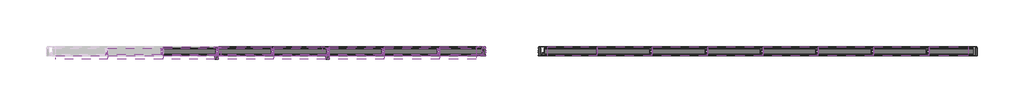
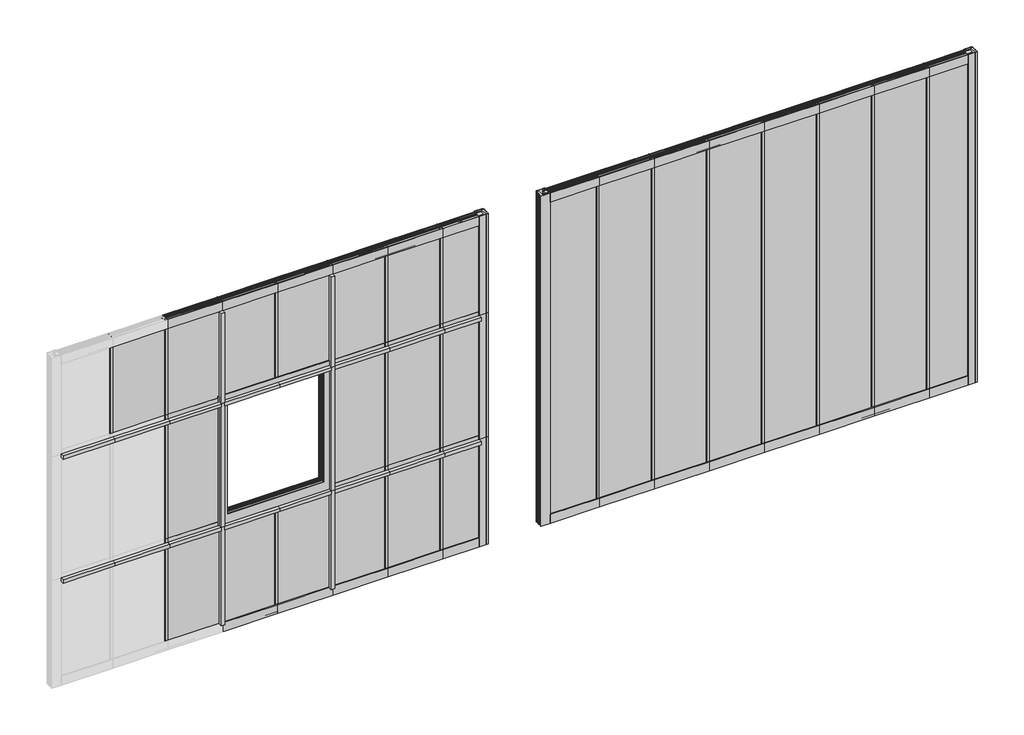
# One storey, part 2 of 2: 54 members, 26 plates.
"""IFC4 building model written with IfcOpenShell, lengths in millimetres."""

from ifc_helpers import new_model, si_unit, origin, place, context, project, spatial, transform, mapped, element, save
from components import rectangular_mullion_8ebac9a3, rectangular_mullion_053339e4, rectangular_mullion_18d46115, rectangular_mullion_0cc837b9, rectangular_mullion_8438cd58, rectangular_mullion_f415532d, rectangular_mullion_088d7f16, rectangular_mullion_d3216a82, rectangular_mullion_355b0079, rectangular_mullion_c23b2a25, rectangular_mullion_e545cc6d, rectangular_mullion_ab91a09a, rectangular_mullion_4e7e75c6, rectangular_mullion_ac457c08, rectangular_mullion_ccd2dda7, plate_56173b51, plate_009a9a5f, plate_79f172ba, plate_d9b624b2, plate_395f4c65, plate_76393524, plate_eff3ac0b, plate_d8b1bd5c, plate_df3c17a9, plate_2f56a092

model = new_model("IFC4")

# Units and contexts
model_context = context("Model", 3, world=origin())
ifc_project = project(units=[si_unit("LENGTHUNIT", "METRE", prefix="MILLI")], contexts=[model_context])

# Site, building, storey
site = spatial("IfcSite", under=ifc_project)
building = spatial("IfcBuilding", under=site)
storey = spatial("IfcBuildingStorey", under=building, Name="Danpal-K7+AIRPT", Elevation=0.0)

# Members
placement = place(None, origin())
rectangular_mullion_shape = rectangular_mullion_8ebac9a3(model_context)
element("IfcMember", 1, ObjectType="Rectangular Mullion : Danpal_Airpt_End-Mullion_B1", at=placement, inside=storey, context=model_context, shape_type="MappedRepresentation", body=[
    mapped(rectangular_mullion_shape, transform((7322.1229407, 18217.5512666, 0.0), x_axis=(0.0, 0.0, -1.0), y_axis=(0.0, -1.0, 0.0), z_axis=(-1.0, 0.0, 0.0))),
])
element("IfcMember", 2, ObjectType="Rectangular Mullion : Danpal_Airpt_End-Mullion_B2", at=placement, inside=storey, context=model_context, shape_type="MappedRepresentation", body=[
    mapped(rectangular_mullion_shape, transform((7322.1229407, 18217.5512666, 4000.0), x_axis=(0.0, 0.0, 1.0), y_axis=(0.0, -1.0, 0.0), z_axis=(1.0, 0.0, 0.0))),
])
rectangular_mullion_2_shape = rectangular_mullion_053339e4(model_context)
element("IfcMember", 3, ObjectType="Rectangular Mullion : Danpal_NM_Middle-V-Mullion", at=placement, inside=storey, context=model_context, shape_type="MappedRepresentation", body=[
    mapped(rectangular_mullion_2_shape, transform((7322.1229407, 18217.5512666, 106.8892292), x_axis=(1.0, 0.0, 0.0), y_axis=(0.0, -1.0, 0.0), z_axis=(0.0, 0.0, -1.0))),
])
element("IfcMember", 4, ObjectType="Rectangular Mullion : Danpal_NM_Middle-V-Mullion", at=placement, inside=storey, context=model_context, shape_type="MappedRepresentation", body=[
    mapped(rectangular_mullion_2_shape, transform((8582.1229407, 18217.5512666, 106.8892292), x_axis=(1.0, 0.0, 0.0), y_axis=(0.0, -1.0, 0.0), z_axis=(0.0, 0.0, -1.0))),
])
rectangular_mullion_3_shape = rectangular_mullion_18d46115(model_context)
element("IfcMember", 5, ObjectType="Rectangular Mullion : Danpal_NM_Middle-V-Mullion", at=placement, inside=storey, context=model_context, shape_type="MappedRepresentation", body=[
    mapped(rectangular_mullion_3_shape, transform((7322.1229407, 18217.5512666, 1300.0), x_axis=(1.0, 0.0, 0.0), y_axis=(0.0, -1.0, 0.0), z_axis=(0.0, 0.0, -1.0))),
])
element("IfcMember", 6, ObjectType="Rectangular Mullion : Danpal_NM_Middle-V-Mullion", at=placement, inside=storey, context=model_context, shape_type="MappedRepresentation", body=[
    mapped(rectangular_mullion_3_shape, transform((8582.1229407, 18217.5512666, 1300.0), x_axis=(1.0, 0.0, 0.0), y_axis=(0.0, -1.0, 0.0), z_axis=(0.0, 0.0, -1.0))),
])
rectangular_mullion_4_shape = rectangular_mullion_0cc837b9(model_context)
element("IfcMember", 7, ObjectType="Rectangular Mullion : Danpal_NM_Middle-V-Mullion", at=placement, inside=storey, context=model_context, shape_type="MappedRepresentation", body=[
    mapped(rectangular_mullion_4_shape, transform((7322.1229407, 18217.5512666, 2800.0), x_axis=(1.0, 0.0, 0.0), y_axis=(0.0, -1.0, 0.0), z_axis=(0.0, 0.0, -1.0))),
])
element("IfcMember", 8, ObjectType="Rectangular Mullion : Danpal_NM_Middle-V-Mullion", at=placement, inside=storey, context=model_context, shape_type="MappedRepresentation", body=[
    mapped(rectangular_mullion_4_shape, transform((8582.1229407, 18217.5512666, 2800.0), x_axis=(1.0, 0.0, 0.0), y_axis=(0.0, -1.0, 0.0), z_axis=(0.0, 0.0, -1.0))),
])
rectangular_mullion_5_shape = rectangular_mullion_8438cd58(model_context)
element("IfcMember", 9, ObjectType="Rectangular Mullion : Danpal_Airpt_End-Mullion_B2", at=placement, inside=storey, context=model_context, shape_type="MappedRepresentation", body=[
    mapped(rectangular_mullion_5_shape, transform((10364.2822678, 18217.5512666, 2800.0), x_axis=(1.0, 0.0, 0.0), y_axis=(0.0, -1.0, 0.0), z_axis=(0.0, 0.0, -1.0))),
])
rectangular_mullion_6_shape = rectangular_mullion_f415532d(model_context)
element("IfcMember", 10, ObjectType="Rectangular Mullion : Danpal_Airpt_End-Mullion_B2", at=placement, inside=storey, context=model_context, shape_type="MappedRepresentation", body=[
    mapped(rectangular_mullion_6_shape, transform((10364.2822678, 18217.5512666, 1300.0), x_axis=(1.0, 0.0, 0.0), y_axis=(0.0, -1.0, 0.0), z_axis=(0.0, 0.0, -1.0))),
])
element("IfcMember", 11, ObjectType="Rectangular Mullion : Danpal_Airpt_End-Mullion_B1", at=placement, inside=storey, context=model_context, shape_type="MappedRepresentation", body=[
    mapped(rectangular_mullion_shape, transform((11633.330824, 18217.5512666, 0.0), x_axis=(0.0, 0.0, -1.0), y_axis=(0.0, -1.0, 0.0), z_axis=(-1.0, 0.0, 0.0))),
])
element("IfcMember", 12, ObjectType="Rectangular Mullion : Danpal_Airpt_End-Mullion_B1", at=placement, inside=storey, context=model_context, shape_type="MappedRepresentation", body=[
    mapped(rectangular_mullion_shape, transform((12263.330824, 18217.5512666, 0.0), x_axis=(0.0, 0.0, -1.0), y_axis=(0.0, -1.0, 0.0), z_axis=(-1.0, 0.0, 0.0))),
])
element("IfcMember", 13, ObjectType="Rectangular Mullion : Danpal_Airpt_End-Mullion_B1", at=placement, inside=storey, context=model_context, shape_type="MappedRepresentation", body=[
    mapped(rectangular_mullion_shape, transform((12893.330824, 18217.5512666, 0.0), x_axis=(0.0, 0.0, -1.0), y_axis=(0.0, -1.0, 0.0), z_axis=(-1.0, 0.0, 0.0))),
])
rectangular_mullion_7_shape = rectangular_mullion_088d7f16(model_context)
element("IfcMember", 14, ObjectType="Rectangular Mullion : Danpal_NM_Middle-V-Mullion", at=placement, inside=storey, context=model_context, shape_type="MappedRepresentation", body=[
    mapped(rectangular_mullion_7_shape, transform((7282.1229407, 18217.5512666, 1300.0), x_axis=(0.0, 0.0, 1.0), y_axis=(0.0, -1.0, 0.0), z_axis=(1.0, 0.0, 0.0))),
])
element("IfcMember", 15, ObjectType="Rectangular Mullion : Danpal_NM_Middle-V-Mullion", at=placement, inside=storey, context=model_context, shape_type="MappedRepresentation", body=[
    mapped(rectangular_mullion_7_shape, transform((8542.1229407, 18217.5512666, 1300.0), x_axis=(0.0, 0.0, 1.0), y_axis=(0.0, -1.0, 0.0), z_axis=(1.0, 0.0, 0.0))),
])
element("IfcMember", 16, ObjectType="Rectangular Mullion : Danpal_NM_Middle-V-Mullion", at=placement, inside=storey, context=model_context, shape_type="MappedRepresentation", body=[
    mapped(rectangular_mullion_7_shape, transform((7282.1229407, 18217.5512666, 2800.0), x_axis=(0.0, 0.0, 1.0), y_axis=(0.0, -1.0, 0.0), z_axis=(1.0, 0.0, 0.0))),
])
element("IfcMember", 17, ObjectType="Rectangular Mullion : Danpal_NM_Middle-V-Mullion", at=placement, inside=storey, context=model_context, shape_type="MappedRepresentation", body=[
    mapped(rectangular_mullion_7_shape, transform((8542.1229407, 18217.5512666, 2800.0), x_axis=(0.0, 0.0, 1.0), y_axis=(0.0, -1.0, 0.0), z_axis=(1.0, 0.0, 0.0))),
])
rectangular_mullion_8_shape = rectangular_mullion_d3216a82(model_context)
element("IfcMember", 18, ObjectType="Rectangular Mullion : Danpal_NM_Middle-V-Mullion", at=placement, inside=storey, context=model_context, shape_type="MappedRepresentation", body=[
    mapped(rectangular_mullion_8_shape, transform((6692.1229407, 18217.5512666, 1300.0), x_axis=(0.0, 0.0, 1.0), y_axis=(0.0, -1.0, 0.0), z_axis=(1.0, 0.0, 0.0))),
])
element("IfcMember", 19, ObjectType="Rectangular Mullion : Danpal_NM_Middle-V-Mullion", at=placement, inside=storey, context=model_context, shape_type="MappedRepresentation", body=[
    mapped(rectangular_mullion_8_shape, transform((9842.1229407, 18217.5512666, 1300.0), x_axis=(0.0, 0.0, 1.0), y_axis=(0.0, -1.0, 0.0), z_axis=(1.0, 0.0, 0.0))),
])
element("IfcMember", 20, ObjectType="Rectangular Mullion : Danpal_NM_Middle-V-Mullion", at=placement, inside=storey, context=model_context, shape_type="MappedRepresentation", body=[
    mapped(rectangular_mullion_8_shape, transform((6692.1229407, 18217.5512666, 2800.0), x_axis=(0.0, 0.0, 1.0), y_axis=(0.0, -1.0, 0.0), z_axis=(1.0, 0.0, 0.0))),
])
element("IfcMember", 21, ObjectType="Rectangular Mullion : Danpal_NM_Middle-V-Mullion", at=placement, inside=storey, context=model_context, shape_type="MappedRepresentation", body=[
    mapped(rectangular_mullion_8_shape, transform((9842.1229407, 18217.5512666, 2800.0), x_axis=(0.0, 0.0, 1.0), y_axis=(0.0, -1.0, 0.0), z_axis=(1.0, 0.0, 0.0))),
])
rectangular_mullion_9_shape = rectangular_mullion_355b0079(model_context)
element("IfcMember", 22, ObjectType="Rectangular Mullion : Danpal_Airpt_End-Mullion_B2", at=placement, inside=storey, context=model_context, shape_type="MappedRepresentation", body=[
    mapped(rectangular_mullion_9_shape, transform((11633.330824, 18217.5512666, 4000.0), x_axis=(0.0, 0.0, 1.0), y_axis=(0.0, -1.0, 0.0), z_axis=(1.0, 0.0, 0.0))),
])
rectangular_mullion_10_shape = rectangular_mullion_c23b2a25(model_context)
element("IfcMember", 23, ObjectType="Rectangular Mullion : Danpal_Airpt_End-Mullion_B2", at=placement, inside=storey, context=model_context, shape_type="MappedRepresentation", body=[
    mapped(rectangular_mullion_10_shape, transform((15857.3930386, 18217.5512666, 4000.0), x_axis=(0.0, 0.0, 1.0), y_axis=(0.0, -1.0, 0.0), z_axis=(1.0, 0.0, 0.0))),
])
element("IfcMember", 24, ObjectType="Rectangular Mullion : Danpal_Airpt_End-Mullion_B1", at=placement, inside=storey, context=model_context, shape_type="MappedRepresentation", body=[
    mapped(rectangular_mullion_10_shape, transform((15413.330824, 18217.5512666, 0.0), x_axis=(0.0, 0.0, -1.0), y_axis=(0.0, -1.0, 0.0), z_axis=(-1.0, 0.0, 0.0))),
])
rectangular_mullion_11_shape = rectangular_mullion_e545cc6d(model_context)
element("IfcMember", 25, ObjectType="Rectangular Mullion : Danpal_Airpt_End-Mullion_B2", at=placement, inside=storey, context=model_context, shape_type="MappedRepresentation", body=[
    mapped(rectangular_mullion_11_shape, transform((10257.3930386, 18217.5512666, 4000.0), x_axis=(0.0, 0.0, 1.0), y_axis=(0.0, -1.0, 0.0), z_axis=(1.0, 0.0, 0.0))),
])
element("IfcMember", 26, ObjectType="Rectangular Mullion : Danpal_Airpt_End-Mullion_B1", at=placement, inside=storey, context=model_context, shape_type="MappedRepresentation", body=[
    mapped(rectangular_mullion_11_shape, transform((9842.1229407, 18217.5512666, 0.0), x_axis=(0.0, 0.0, -1.0), y_axis=(0.0, -1.0, 0.0), z_axis=(-1.0, 0.0, 0.0))),
])
element("IfcMember", 27, ObjectType="Rectangular Mullion : Danpal_Airpt_End-Mullion_B1", at=placement, inside=storey, context=model_context, shape_type="MappedRepresentation", body=[
    mapped(rectangular_mullion_9_shape, transform((11071.171497, 18217.5512666, 0.0), x_axis=(0.0, 0.0, -1.0), y_axis=(0.0, -1.0, 0.0), z_axis=(-1.0, 0.0, 0.0))),
])
rectangular_mullion_12_shape = rectangular_mullion_ab91a09a(model_context)
element("IfcMember", 28, ObjectType="Rectangular Mullion : Danpal_NM_Middle-V-Mullion", at=placement, inside=storey, context=model_context, shape_type="MappedRepresentation", body=[
    mapped(rectangular_mullion_12_shape, transform((6062.1229407, 18217.5512666, 1300.0), x_axis=(0.0, 0.0, 1.0), y_axis=(0.0, -1.0, 0.0), z_axis=(1.0, 0.0, 0.0))),
])
element("IfcMember", 29, ObjectType="Rectangular Mullion : Danpal_NM_Middle-V-Mullion", at=placement, inside=storey, context=model_context, shape_type="MappedRepresentation", body=[
    mapped(rectangular_mullion_12_shape, transform((6062.1229407, 18217.5512666, 2800.0), x_axis=(0.0, 0.0, 1.0), y_axis=(0.0, -1.0, 0.0), z_axis=(1.0, 0.0, 0.0))),
])
rectangular_mullion_13_shape = rectangular_mullion_4e7e75c6(model_context)
element("IfcMember", 30, ObjectType="Rectangular Mullion : Danpal_NM_Middle-V-Mullion", at=placement, inside=storey, context=model_context, shape_type="MappedRepresentation", body=[
    mapped(rectangular_mullion_13_shape, transform((10257.3930386, 18217.5512666, 1300.0), x_axis=(0.0, 0.0, 1.0), y_axis=(0.0, -1.0, 0.0), z_axis=(1.0, 0.0, 0.0))),
])
element("IfcMember", 31, ObjectType="Rectangular Mullion : Danpal_NM_Middle-V-Mullion", at=placement, inside=storey, context=model_context, shape_type="MappedRepresentation", body=[
    mapped(rectangular_mullion_13_shape, transform((10257.3930386, 18217.5512666, 2800.0), x_axis=(0.0, 0.0, 1.0), y_axis=(0.0, -1.0, 0.0), z_axis=(1.0, 0.0, 0.0))),
])
rectangular_mullion_14_shape = rectangular_mullion_ac457c08(model_context)
element("IfcMember", 32, ObjectType="Rectangular Mullion : Danpal_Airpt_End-Mullion_B2", at=placement, inside=storey, context=model_context, shape_type="MappedRepresentation", body=[
    mapped(rectangular_mullion_14_shape, transform((10364.2822678, 18217.5512666, 0.0), x_axis=(1.0, 0.0, 0.0), y_axis=(0.0, -1.0, 0.0), z_axis=(0.0, 0.0, -1.0))),
])
element("IfcMember", 33, ObjectType="Rectangular Mullion : Danpal_Airpt_End-Mullion_B2", at=placement, inside=storey, context=model_context, shape_type="MappedRepresentation", body=[
    mapped(rectangular_mullion_shape, transform((7952.1229407, 18217.5512666, 4000.0), x_axis=(0.0, 0.0, 1.0), y_axis=(0.0, -1.0, 0.0), z_axis=(1.0, 0.0, 0.0))),
])
element("IfcMember", 34, ObjectType="Rectangular Mullion : Danpal_Airpt_End-Mullion_B2", at=placement, inside=storey, context=model_context, shape_type="MappedRepresentation", body=[
    mapped(rectangular_mullion_shape, transform((9212.1229407, 18217.5512666, 4000.0), x_axis=(0.0, 0.0, 1.0), y_axis=(0.0, -1.0, 0.0), z_axis=(1.0, 0.0, 0.0))),
])
element("IfcMember", 35, ObjectType="Rectangular Mullion : Danpal_NM_Middle-V-Mullion", at=placement, inside=storey, context=model_context, shape_type="MappedRepresentation", body=[
    mapped(rectangular_mullion_8_shape, transform((7952.1229407, 18217.5512666, 1300.0), x_axis=(0.0, 0.0, 1.0), y_axis=(0.0, -1.0, 0.0), z_axis=(1.0, 0.0, 0.0))),
])
element("IfcMember", 36, ObjectType="Rectangular Mullion : Danpal_NM_Middle-V-Mullion", at=placement, inside=storey, context=model_context, shape_type="MappedRepresentation", body=[
    mapped(rectangular_mullion_8_shape, transform((9212.1229407, 18217.5512666, 1300.0), x_axis=(0.0, 0.0, 1.0), y_axis=(0.0, -1.0, 0.0), z_axis=(1.0, 0.0, 0.0))),
])
element("IfcMember", 37, ObjectType="Rectangular Mullion : Danpal_NM_Middle-V-Mullion", at=placement, inside=storey, context=model_context, shape_type="MappedRepresentation", body=[
    mapped(rectangular_mullion_8_shape, transform((7952.1229407, 18217.5512666, 2800.0), x_axis=(0.0, 0.0, 1.0), y_axis=(0.0, -1.0, 0.0), z_axis=(1.0, 0.0, 0.0))),
])
element("IfcMember", 38, ObjectType="Rectangular Mullion : Danpal_NM_Middle-V-Mullion", at=placement, inside=storey, context=model_context, shape_type="MappedRepresentation", body=[
    mapped(rectangular_mullion_8_shape, transform((9212.1229407, 18217.5512666, 2800.0), x_axis=(0.0, 0.0, 1.0), y_axis=(0.0, -1.0, 0.0), z_axis=(1.0, 0.0, 0.0))),
])
element("IfcMember", 39, ObjectType="Rectangular Mullion : Danpal_Airpt_End-Mullion_B2", at=placement, inside=storey, context=model_context, shape_type="MappedRepresentation", body=[
    mapped(rectangular_mullion_shape, transform((8582.1229407, 18217.5512666, 4000.0), x_axis=(0.0, 0.0, 1.0), y_axis=(0.0, -1.0, 0.0), z_axis=(1.0, 0.0, 0.0))),
])
element("IfcMember", 40, ObjectType="Rectangular Mullion : Danpal_Airpt_End-Mullion_B1", at=placement, inside=storey, context=model_context, shape_type="MappedRepresentation", body=[
    mapped(rectangular_mullion_shape, transform((7952.1229407, 18217.5512666, 0.0), x_axis=(0.0, 0.0, -1.0), y_axis=(0.0, -1.0, 0.0), z_axis=(-1.0, 0.0, 0.0))),
])
element("IfcMember", 41, ObjectType="Rectangular Mullion : Danpal_Airpt_End-Mullion_B1", at=placement, inside=storey, context=model_context, shape_type="MappedRepresentation", body=[
    mapped(rectangular_mullion_shape, transform((8582.1229407, 18217.5512666, 0.0), x_axis=(0.0, 0.0, -1.0), y_axis=(0.0, -1.0, 0.0), z_axis=(-1.0, 0.0, 0.0))),
])
rectangular_mullion_15_shape = rectangular_mullion_ccd2dda7(model_context)
element("IfcMember", 42, ObjectType="Rectangular Mullion : Danpal_Airpt_End-Mullion_B1", at=placement, inside=storey, context=model_context, shape_type="MappedRepresentation", body=[
    mapped(rectangular_mullion_15_shape, transform((10964.2822678, 18217.5512666, 4000.0), x_axis=(-1.0, 0.0, 0.0), y_axis=(0.0, -1.0, 0.0), z_axis=(0.0, 0.0, 1.0))),
])
element("IfcMember", 43, ObjectType="Rectangular Mullion : Danpal_Airpt_End-Mullion_B2", at=placement, inside=storey, context=model_context, shape_type="MappedRepresentation", body=[
    mapped(rectangular_mullion_15_shape, transform((15964.2822678, 18217.5512666, 0.0), x_axis=(1.0, 0.0, 0.0), y_axis=(0.0, -1.0, 0.0), z_axis=(0.0, 0.0, -1.0))),
])
element("IfcMember", 44, ObjectType="Rectangular Mullion : Danpal_Airpt_End-Mullion_B2", at=placement, inside=storey, context=model_context, shape_type="MappedRepresentation", body=[
    mapped(rectangular_mullion_shape, transform((9842.1229407, 18217.5512666, 4000.0), x_axis=(0.0, 0.0, 1.0), y_axis=(0.0, -1.0, 0.0), z_axis=(1.0, 0.0, 0.0))),
])
element("IfcMember", 45, ObjectType="Rectangular Mullion : Danpal_Airpt_End-Mullion_B2", at=placement, inside=storey, context=model_context, shape_type="MappedRepresentation", body=[
    mapped(rectangular_mullion_shape, transform((15413.330824, 18217.5512666, 4000.0), x_axis=(0.0, 0.0, 1.0), y_axis=(0.0, -1.0, 0.0), z_axis=(1.0, 0.0, 0.0))),
])
element("IfcMember", 46, ObjectType="Rectangular Mullion : Danpal_Airpt_End-Mullion_B2", at=placement, inside=storey, context=model_context, shape_type="MappedRepresentation", body=[
    mapped(rectangular_mullion_shape, transform((12263.330824, 18217.5512666, 4000.0), x_axis=(0.0, 0.0, 1.0), y_axis=(0.0, -1.0, 0.0), z_axis=(1.0, 0.0, 0.0))),
])
element("IfcMember", 47, ObjectType="Rectangular Mullion : Danpal_Airpt_End-Mullion_B2", at=placement, inside=storey, context=model_context, shape_type="MappedRepresentation", body=[
    mapped(rectangular_mullion_shape, transform((12893.330824, 18217.5512666, 4000.0), x_axis=(0.0, 0.0, 1.0), y_axis=(0.0, -1.0, 0.0), z_axis=(1.0, 0.0, 0.0))),
])
element("IfcMember", 48, ObjectType="Rectangular Mullion : Danpal_Airpt_End-Mullion_B2", at=placement, inside=storey, context=model_context, shape_type="MappedRepresentation", body=[
    mapped(rectangular_mullion_shape, transform((13523.330824, 18217.5512666, 4000.0), x_axis=(0.0, 0.0, 1.0), y_axis=(0.0, -1.0, 0.0), z_axis=(1.0, 0.0, 0.0))),
])
element("IfcMember", 49, ObjectType="Rectangular Mullion : Danpal_Airpt_End-Mullion_B2", at=placement, inside=storey, context=model_context, shape_type="MappedRepresentation", body=[
    mapped(rectangular_mullion_shape, transform((14153.330824, 18217.5512666, 4000.0), x_axis=(0.0, 0.0, 1.0), y_axis=(0.0, -1.0, 0.0), z_axis=(1.0, 0.0, 0.0))),
])
element("IfcMember", 50, ObjectType="Rectangular Mullion : Danpal_Airpt_End-Mullion_B2", at=placement, inside=storey, context=model_context, shape_type="MappedRepresentation", body=[
    mapped(rectangular_mullion_shape, transform((14783.330824, 18217.5512666, 4000.0), x_axis=(0.0, 0.0, 1.0), y_axis=(0.0, -1.0, 0.0), z_axis=(1.0, 0.0, 0.0))),
])
element("IfcMember", 51, ObjectType="Rectangular Mullion : Danpal_Airpt_End-Mullion_B1", at=placement, inside=storey, context=model_context, shape_type="MappedRepresentation", body=[
    mapped(rectangular_mullion_shape, transform((9212.1229407, 18217.5512666, 0.0), x_axis=(0.0, 0.0, -1.0), y_axis=(0.0, -1.0, 0.0), z_axis=(-1.0, 0.0, 0.0))),
])
element("IfcMember", 52, ObjectType="Rectangular Mullion : Danpal_Airpt_End-Mullion_B1", at=placement, inside=storey, context=model_context, shape_type="MappedRepresentation", body=[
    mapped(rectangular_mullion_shape, transform((13523.330824, 18217.5512666, 0.0), x_axis=(0.0, 0.0, -1.0), y_axis=(0.0, -1.0, 0.0), z_axis=(-1.0, 0.0, 0.0))),
])
element("IfcMember", 53, ObjectType="Rectangular Mullion : Danpal_Airpt_End-Mullion_B1", at=placement, inside=storey, context=model_context, shape_type="MappedRepresentation", body=[
    mapped(rectangular_mullion_shape, transform((14153.330824, 18217.5512666, 0.0), x_axis=(0.0, 0.0, -1.0), y_axis=(0.0, -1.0, 0.0), z_axis=(-1.0, 0.0, 0.0))),
])
element("IfcMember", 54, ObjectType="Rectangular Mullion : Danpal_Airpt_End-Mullion_B1", at=placement, inside=storey, context=model_context, shape_type="MappedRepresentation", body=[
    mapped(rectangular_mullion_shape, transform((14783.330824, 18217.5512666, 0.0), x_axis=(0.0, 0.0, -1.0), y_axis=(0.0, -1.0, 0.0), z_axis=(-1.0, 0.0, 0.0))),
])

# Plates
plate_shape = plate_56173b51(model_context)
element("IfcPlate", 55, ObjectType="Window-Profile-Danpal-AIRPT : Window-Profile-Danpal-AIRPT", at=placement, inside=storey, context=model_context, shape_type="MappedRepresentation", body=[
    mapped(plate_shape, transform((7952.1229407, 18217.5512666, 1300.0), x_axis=(1.0, 0.0, 0.0), y_axis=(0.0, 1.0, 0.0), z_axis=(0.0, 0.0, 1.0))),
])
plate_2_shape = plate_009a9a5f(model_context)
element("IfcPlate", 56, ObjectType="Walls_External-Walls_Danpal_Danpatherm-K7-with-AIRPT-Frame : Walls_External-Walls_Danpal_Danpatherm-K7-with-AIRPT-Frame", at=placement, inside=storey, context=model_context, shape_type="MappedRepresentation", body=[
    mapped(plate_2_shape, transform((7007.1229407, 18217.5512666, 1300.0), x_axis=(1.0, 0.0, 0.0), y_axis=(0.0, 1.0, 0.0), z_axis=(0.0, 0.0, 1.0))),
])
element("IfcPlate", 57, ObjectType="Walls_External-Walls_Danpal_Danpatherm-K7-with-AIRPT-Frame : Walls_External-Walls_Danpal_Danpatherm-K7-with-AIRPT-Frame", at=placement, inside=storey, context=model_context, shape_type="MappedRepresentation", body=[
    mapped(plate_2_shape, transform((8897.1229407, 18217.5512666, 1300.0), x_axis=(1.0, 0.0, 0.0), y_axis=(0.0, 1.0, 0.0), z_axis=(0.0, 0.0, 1.0))),
])
element("IfcPlate", 58, ObjectType="Walls_External-Walls_Danpal_Danpatherm-K7-with-AIRPT-Frame : Walls_External-Walls_Danpal_Danpatherm-K7-with-AIRPT-Frame", at=placement, inside=storey, context=model_context, shape_type="MappedRepresentation", body=[
    mapped(plate_2_shape, transform((9527.1229407, 18217.5512666, 1300.0), x_axis=(1.0, 0.0, 0.0), y_axis=(0.0, 1.0, 0.0), z_axis=(0.0, 0.0, 1.0))),
])
plate_3_shape = plate_79f172ba(model_context)
element("IfcPlate", 59, ObjectType="Walls_External-Walls_Danpal_Danpatherm-K7-with-AIRPT-Frame : Walls_External-Walls_Danpal_Danpatherm-K7-with-AIRPT-Frame", at=placement, inside=storey, context=model_context, shape_type="MappedRepresentation", body=[
    mapped(plate_3_shape, transform((11332.7268824, 18217.5512666, 67.840673), x_axis=(1.0, 0.0, 0.0), y_axis=(0.0, 1.0, 0.0), z_axis=(0.0, 0.0, 1.0))),
])
plate_4_shape = plate_d9b624b2(model_context)
element("IfcPlate", 60, ObjectType="Walls_External-Walls_Danpal_Danpatherm-K7-with-AIRPT-Frame : Walls_External-Walls_Danpal_Danpatherm-K7-with-AIRPT-Frame", at=placement, inside=storey, context=model_context, shape_type="MappedRepresentation", body=[
    mapped(plate_4_shape, transform((15666.0362094, 18217.5512666, 67.840673), x_axis=(1.0, 0.0, 0.0), y_axis=(0.0, 1.0, 0.0), z_axis=(0.0, 0.0, 1.0))),
])
plate_5_shape = plate_395f4c65(model_context)
element("IfcPlate", 61, ObjectType="Walls_External-Walls_Danpal_Danpatherm-K7-with-AIRPT-Frame : Walls_External-Walls_Danpal_Danpatherm-K7-with-AIRPT-Frame", at=placement, inside=storey, context=model_context, shape_type="MappedRepresentation", body=[
    mapped(plate_5_shape, transform((10080.4322678, 18217.5512666, 2800.0), x_axis=(1.0, 0.0, 0.0), y_axis=(0.0, 1.0, 0.0), z_axis=(0.0, 0.0, 1.0))),
])
plate_6_shape = plate_76393524(model_context)
element("IfcPlate", 62, ObjectType="Walls_External-Walls_Danpal_Danpatherm-K7-with-AIRPT-Frame : Walls_External-Walls_Danpal_Danpatherm-K7-with-AIRPT-Frame", at=placement, inside=storey, context=model_context, shape_type="MappedRepresentation", body=[
    mapped(plate_6_shape, transform((10080.4322678, 18217.5512666, 67.840673), x_axis=(1.0, 0.0, 0.0), y_axis=(0.0, 1.0, 0.0), z_axis=(0.0, 0.0, 1.0))),
])
plate_7_shape = plate_eff3ac0b(model_context)
element("IfcPlate", 63, ObjectType="Walls_External-Walls_Danpal_Danpatherm-K7-with-AIRPT-Frame : Walls_External-Walls_Danpal_Danpatherm-K7-with-AIRPT-Frame", at=placement, inside=storey, context=model_context, shape_type="MappedRepresentation", body=[
    mapped(plate_7_shape, transform((10080.4322678, 18217.5512666, 1300.0), x_axis=(1.0, 0.0, 0.0), y_axis=(0.0, 1.0, 0.0), z_axis=(0.0, 0.0, 1.0))),
])
plate_8_shape = plate_d8b1bd5c(model_context)
element("IfcPlate", 64, ObjectType="Walls_External-Walls_Danpal_Danpatherm-K7-with-AIRPT-Frame : Walls_External-Walls_Danpal_Danpatherm-K7-with-AIRPT-Frame", at=placement, inside=storey, context=model_context, shape_type="MappedRepresentation", body=[
    mapped(plate_8_shape, transform((8267.1229407, 18217.5512666, 67.840673), x_axis=(1.0, 0.0, 0.0), y_axis=(0.0, 1.0, 0.0), z_axis=(0.0, 0.0, 1.0))),
])
element("IfcPlate", 65, ObjectType="Walls_External-Walls_Danpal_Danpatherm-K7-with-AIRPT-Frame : Walls_External-Walls_Danpal_Danpatherm-K7-with-AIRPT-Frame", at=placement, inside=storey, context=model_context, shape_type="MappedRepresentation", body=[
    mapped(plate_8_shape, transform((8897.1229407, 18217.5512666, 67.840673), x_axis=(1.0, 0.0, 0.0), y_axis=(0.0, 1.0, 0.0), z_axis=(0.0, 0.0, 1.0))),
])
element("IfcPlate", 66, ObjectType="Walls_External-Walls_Danpal_Danpatherm-K7-with-AIRPT-Frame : Walls_External-Walls_Danpal_Danpatherm-K7-with-AIRPT-Frame", at=placement, inside=storey, context=model_context, shape_type="MappedRepresentation", body=[
    mapped(plate_8_shape, transform((9527.1229407, 18217.5512666, 67.840673), x_axis=(1.0, 0.0, 0.0), y_axis=(0.0, 1.0, 0.0), z_axis=(0.0, 0.0, 1.0))),
])
element("IfcPlate", 67, ObjectType="Walls_External-Walls_Danpal_Danpatherm-K7-with-AIRPT-Frame : Walls_External-Walls_Danpal_Danpatherm-K7-with-AIRPT-Frame", at=placement, inside=storey, context=model_context, shape_type="MappedRepresentation", body=[
    mapped(plate_8_shape, transform((7637.1229407, 18217.5512666, 67.840673), x_axis=(1.0, 0.0, 0.0), y_axis=(0.0, 1.0, 0.0), z_axis=(0.0, 0.0, 1.0))),
])
element("IfcPlate", 68, ObjectType="Walls_External-Walls_Danpal_Danpatherm-K7-with-AIRPT-Frame : Walls_External-Walls_Danpal_Danpatherm-K7-with-AIRPT-Frame", at=placement, inside=storey, context=model_context, shape_type="MappedRepresentation", body=[
    mapped(plate_8_shape, transform((7007.1229407, 18217.5512666, 67.840673), x_axis=(1.0, 0.0, 0.0), y_axis=(0.0, 1.0, 0.0), z_axis=(0.0, 0.0, 1.0))),
])
plate_9_shape = plate_df3c17a9(model_context)
element("IfcPlate", 69, ObjectType="Walls_External-Walls_Danpal_Danpatherm-K7-with-AIRPT-Frame : Walls_External-Walls_Danpal_Danpatherm-K7-with-AIRPT-Frame", at=placement, inside=storey, context=model_context, shape_type="MappedRepresentation", body=[
    mapped(plate_9_shape, transform((6377.1229407, 18217.5512666, 2800.0), x_axis=(1.0, 0.0, 0.0), y_axis=(0.0, 1.0, 0.0), z_axis=(0.0, 0.0, 1.0))),
])
element("IfcPlate", 70, ObjectType="Walls_External-Walls_Danpal_Danpatherm-K7-with-AIRPT-Frame : Walls_External-Walls_Danpal_Danpatherm-K7-with-AIRPT-Frame", at=placement, inside=storey, context=model_context, shape_type="MappedRepresentation", body=[
    mapped(plate_9_shape, transform((7007.1229407, 18217.5512666, 2800.0), x_axis=(1.0, 0.0, 0.0), y_axis=(0.0, 1.0, 0.0), z_axis=(0.0, 0.0, 1.0))),
])
element("IfcPlate", 71, ObjectType="Walls_External-Walls_Danpal_Danpatherm-K7-with-AIRPT-Frame : Walls_External-Walls_Danpal_Danpatherm-K7-with-AIRPT-Frame", at=placement, inside=storey, context=model_context, shape_type="MappedRepresentation", body=[
    mapped(plate_9_shape, transform((7637.1229407, 18217.5512666, 2800.0), x_axis=(1.0, 0.0, 0.0), y_axis=(0.0, 1.0, 0.0), z_axis=(0.0, 0.0, 1.0))),
])
element("IfcPlate", 72, ObjectType="Walls_External-Walls_Danpal_Danpatherm-K7-with-AIRPT-Frame : Walls_External-Walls_Danpal_Danpatherm-K7-with-AIRPT-Frame", at=placement, inside=storey, context=model_context, shape_type="MappedRepresentation", body=[
    mapped(plate_9_shape, transform((8267.1229407, 18217.5512666, 2800.0), x_axis=(1.0, 0.0, 0.0), y_axis=(0.0, 1.0, 0.0), z_axis=(0.0, 0.0, 1.0))),
])
element("IfcPlate", 73, ObjectType="Walls_External-Walls_Danpal_Danpatherm-K7-with-AIRPT-Frame : Walls_External-Walls_Danpal_Danpatherm-K7-with-AIRPT-Frame", at=placement, inside=storey, context=model_context, shape_type="MappedRepresentation", body=[
    mapped(plate_9_shape, transform((8897.1229407, 18217.5512666, 2800.0), x_axis=(1.0, 0.0, 0.0), y_axis=(0.0, 1.0, 0.0), z_axis=(0.0, 0.0, 1.0))),
])
element("IfcPlate", 74, ObjectType="Walls_External-Walls_Danpal_Danpatherm-K7-with-AIRPT-Frame : Walls_External-Walls_Danpal_Danpatherm-K7-with-AIRPT-Frame", at=placement, inside=storey, context=model_context, shape_type="MappedRepresentation", body=[
    mapped(plate_9_shape, transform((9527.1229407, 18217.5512666, 2800.0), x_axis=(1.0, 0.0, 0.0), y_axis=(0.0, 1.0, 0.0), z_axis=(0.0, 0.0, 1.0))),
])
plate_10_shape = plate_2f56a092(model_context)
element("IfcPlate", 75, ObjectType="Walls_External-Walls_Danpal_Danpatherm-K7-with-AIRPT-Frame : Walls_External-Walls_Danpal_Danpatherm-K7-with-AIRPT-Frame", at=placement, inside=storey, context=model_context, shape_type="MappedRepresentation", body=[
    mapped(plate_10_shape, transform((13838.330824, 18217.5512666, 67.840673), x_axis=(1.0, 0.0, 0.0), y_axis=(0.0, 1.0, 0.0), z_axis=(0.0, 0.0, 1.0))),
])
element("IfcPlate", 76, ObjectType="Walls_External-Walls_Danpal_Danpatherm-K7-with-AIRPT-Frame : Walls_External-Walls_Danpal_Danpatherm-K7-with-AIRPT-Frame", at=placement, inside=storey, context=model_context, shape_type="MappedRepresentation", body=[
    mapped(plate_10_shape, transform((14468.330824, 18217.5512666, 67.840673), x_axis=(1.0, 0.0, 0.0), y_axis=(0.0, 1.0, 0.0), z_axis=(0.0, 0.0, 1.0))),
])
element("IfcPlate", 77, ObjectType="Walls_External-Walls_Danpal_Danpatherm-K7-with-AIRPT-Frame : Walls_External-Walls_Danpal_Danpatherm-K7-with-AIRPT-Frame", at=placement, inside=storey, context=model_context, shape_type="MappedRepresentation", body=[
    mapped(plate_10_shape, transform((15098.330824, 18217.5512666, 67.840673), x_axis=(1.0, 0.0, 0.0), y_axis=(0.0, 1.0, 0.0), z_axis=(0.0, 0.0, 1.0))),
])
element("IfcPlate", 78, ObjectType="Walls_External-Walls_Danpal_Danpatherm-K7-with-AIRPT-Frame : Walls_External-Walls_Danpal_Danpatherm-K7-with-AIRPT-Frame", at=placement, inside=storey, context=model_context, shape_type="MappedRepresentation", body=[
    mapped(plate_10_shape, transform((13208.330824, 18217.5512666, 67.840673), x_axis=(1.0, 0.0, 0.0), y_axis=(0.0, 1.0, 0.0), z_axis=(0.0, 0.0, 1.0))),
])
element("IfcPlate", 79, ObjectType="Walls_External-Walls_Danpal_Danpatherm-K7-with-AIRPT-Frame : Walls_External-Walls_Danpal_Danpatherm-K7-with-AIRPT-Frame", at=placement, inside=storey, context=model_context, shape_type="MappedRepresentation", body=[
    mapped(plate_10_shape, transform((12578.330824, 18217.5512666, 67.840673), x_axis=(1.0, 0.0, 0.0), y_axis=(0.0, 1.0, 0.0), z_axis=(0.0, 0.0, 1.0))),
])
element("IfcPlate", 80, ObjectType="Walls_External-Walls_Danpal_Danpatherm-K7-with-AIRPT-Frame : Walls_External-Walls_Danpal_Danpatherm-K7-with-AIRPT-Frame", at=placement, inside=storey, context=model_context, shape_type="MappedRepresentation", body=[
    mapped(plate_10_shape, transform((11948.330824, 18217.5512666, 67.840673), x_axis=(1.0, 0.0, 0.0), y_axis=(0.0, 1.0, 0.0), z_axis=(0.0, 0.0, 1.0))),
])

save(model, "model.ifc")
